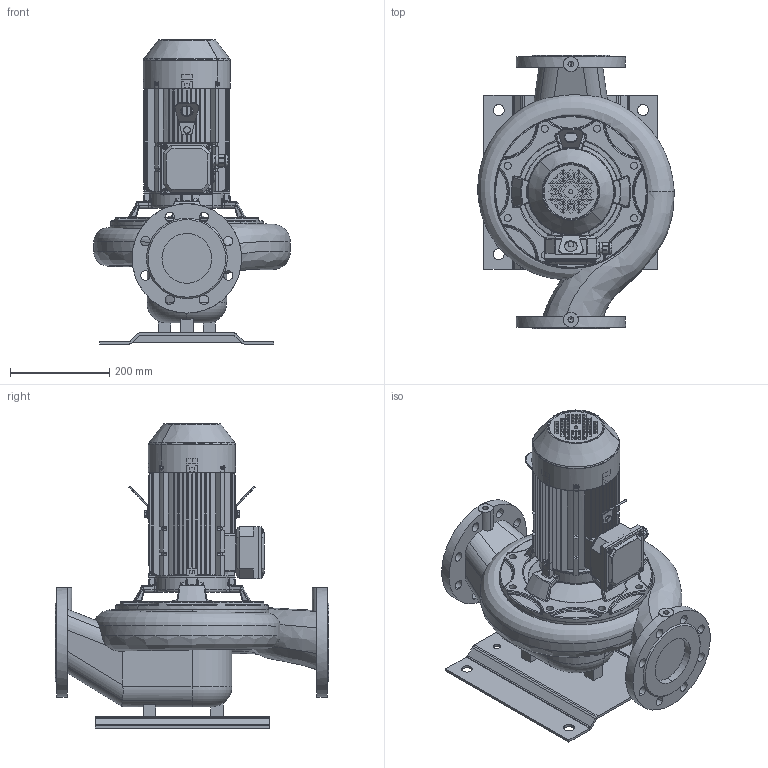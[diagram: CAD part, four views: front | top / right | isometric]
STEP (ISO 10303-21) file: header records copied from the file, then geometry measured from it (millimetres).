
FILE_DESCRIPTION(('STEP AP214'),'1');
FILE_NAME('export.stp','2018-05-28T09:57:31',(' '),(' '),'Spatial InterOp 3D',' ',' ');
FILE_SCHEMA(('AUTOMOTIVE_DESIGN { 1 0 10303 214 1 1 1 1 }'));
Length unit declared in the file: millimetre
Products named in the file (26): W_AKN1004150-KP90; V_TLAKN100127; V_PPAKN100; P100496; P100495; P100342; 160026; 160006; V_MKP90-2_N26; 160141; 160137; 160138; 160139; 160140; Koura_Ale_M5; Plug_Blind_M20; Sealing_Plug_M20; DIN_7985-M5X8; DIN_7985-M5X12; 480037; 480036___; 480039; 480038___; 160135; 160134; DIN_EN_24017_-_M8_16-Stainless_S
Assembly tree (31 placements, depth 4):
  W_AKN1004150-KP90
    V_TLAKN100127
    V_PPAKN100
    P100496
      P100495  x2
      P100342
    V_MKP90-2_N26
      160026
        160006
      160141
        160137
        160138
        160139
        160140
        Koura_Ale_M5
        Plug_Blind_M20
        Sealing_Plug_M20
        DIN_7985-M5X8
        DIN_7985-M5X12  x4
      480037
        480036___
      480039
        480038___
      160135
      160134  x2
      DIN_EN_24017_-_M8_16-Stainless_S  x2
Bounding box: 395.27 x 550 x 611.9 mm (x, y, z)
Volume: 18168295.4 mm3; surface area: 2019608 mm2
Topology: 25 solids, 25 shells, 2652 faces, 7026 edges, 4407 vertices
Faces by surface type: plane 1083, cylinder 788, bspline 288, torus 279, cone 179, sphere 35
Entity records: 101516 total; most frequent: CARTESIAN_POINT 36518, ORIENTED_EDGE 13316, DIRECTION 12352, EDGE_CURVE 6658, AXIS2_PLACEMENT_3D 4690, VERTEX_POINT 4221, LINE 2972, VECTOR 2972
